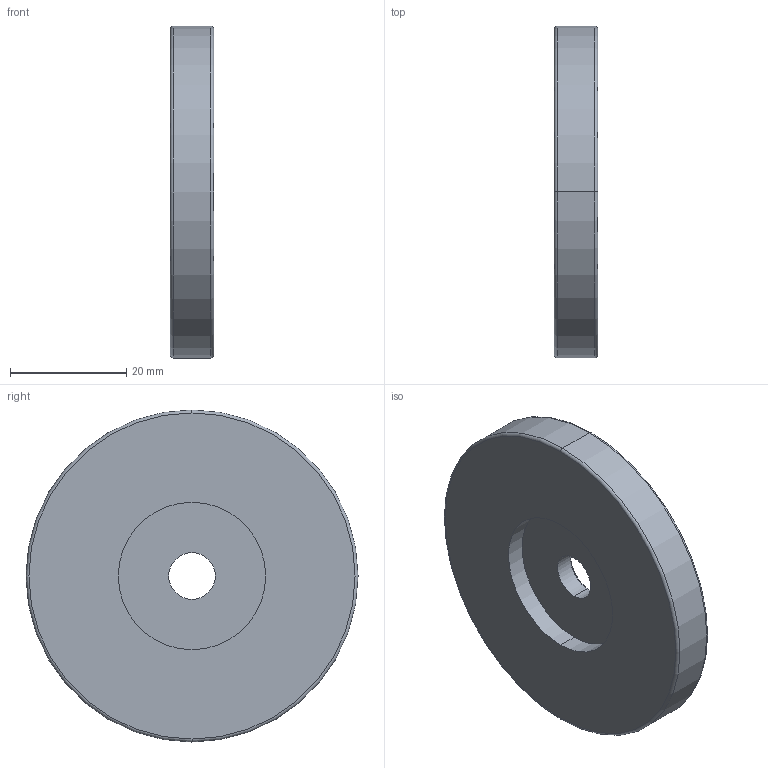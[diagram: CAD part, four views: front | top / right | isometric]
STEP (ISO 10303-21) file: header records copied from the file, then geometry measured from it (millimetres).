
FILE_DESCRIPTION (( 'STEP AP214' ), '1' );
FILE_NAME ('51.4-ND-57-SW.step', '2020-11-27T13:43:33', ( '' ), ( '' ), 'SwSTEP 2.0', 'SolidWorks 2019', '' );
FILE_SCHEMA (( 'AUTOMOTIVE_DESIGN' ));
Length unit declared in the file: millimetre
Products named in the file (1): 51.4-ND-57-SW
Bounding box: 7.5 x 57 x 57 mm (x, y, z)
Volume: 17215.9 mm3; surface area: 6644 mm2
Topology: 1 solids, 1 shells, 16 faces, 32 edges, 20 vertices
Faces by surface type: cylinder 8, torus 4, plane 4
Entity records: 510 total; most frequent: DIRECTION 90, CARTESIAN_POINT 69, ORIENTED_EDGE 64, AXIS2_PLACEMENT_3D 41, EDGE_CURVE 32, CIRCLE 24, EDGE_LOOP 20, VERTEX_POINT 20
